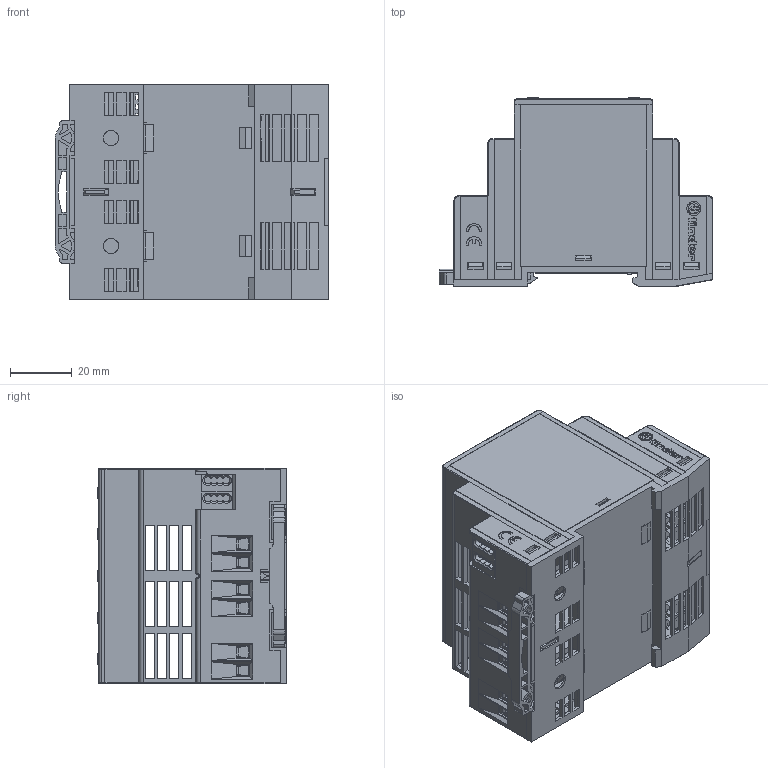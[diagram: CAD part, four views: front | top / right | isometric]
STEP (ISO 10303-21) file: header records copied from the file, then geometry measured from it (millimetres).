
FILE_DESCRIPTION(/* description */ ('Unknown'),/* implementation_level */ '2;1');
FILE_NAME(/* name */ '196K_rev01',/* time_stamp */ '2017-09-06T10:54:02+02:00',/* author */ ('Unknown'),/* organization */ ('Unknown'),/* preprocessor_version */ 'ST-DEVELOPER v16.7',/* originating_system */ 'DEX',/* authorisation */ $);
FILE_SCHEMA (('AUTOMOTIVE_DESIGN {1 0 10303 214 3 1 1}'));
Products named in the file (1): 196K_rev01
Bounding box: 88.85 x 61.15 x 70 mm (x, y, z)
Surface area: 49112.5 mm2 (no closed solid volume)
Topology: 0 solids, 86 shells, 2759 faces, 10093 edges, 7343 vertices
Faces by surface type: plane 2390, cylinder 249, cone 68, torus 40, bspline 12
Full cylindrical faces by diameter (mm): 3 x4, 4 x8, 4.566 x2, 4.6 x12, 5 x14
Entity records: 114802 total; most frequent: CARTESIAN_POINT 22561, ORIENTED_EDGE 16398, DIRECTION 15996, EDGE_CURVE 10018, LINE 8810, VECTOR 8810, VERTEX_POINT 7316, AXIS2_PLACEMENT_3D 3593
